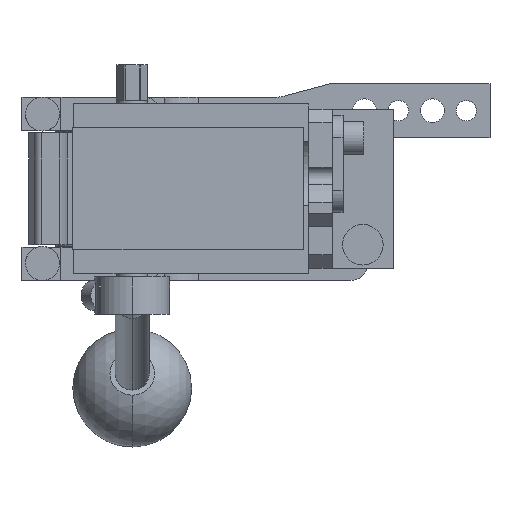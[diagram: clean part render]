
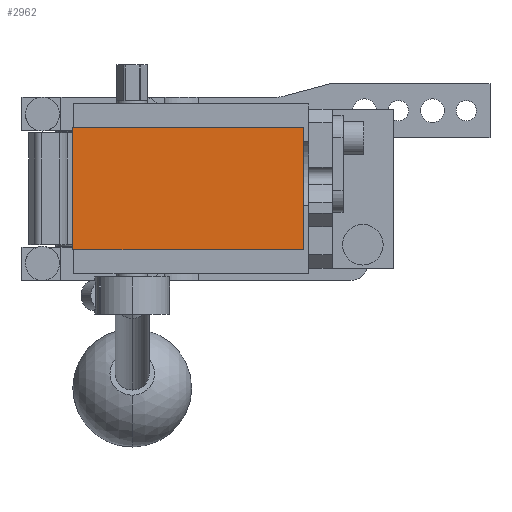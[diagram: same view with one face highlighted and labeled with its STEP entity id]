
A CAD part, front view. The second image highlights one B-rep face of the part: STEP entity #2962.
In plain terms, the highlighted planar face has unit normal (0, -1, 0).
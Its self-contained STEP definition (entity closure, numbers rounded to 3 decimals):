
#75 = EDGE_LOOP ( 'NONE', ( #9098, #14137, #6579, #11395 ) ) ;
#127 = PLANE ( 'NONE',  #14293 ) ;
#1366 = CARTESIAN_POINT ( 'NONE',  ( 0., -233., 0. ) ) ;
#2604 = FACE_OUTER_BOUND ( 'NONE', #75, .T. ) ;
#2962 = ADVANCED_FACE ( 'NONE', ( #2604 ), #127, .T. ) ;
#3426 = DIRECTION ( 'NONE',  ( 0., 0., 1. ) ) ;
#3502 = CARTESIAN_POINT ( 'NONE',  ( -6., -233., 18. ) ) ;
#3638 = DIRECTION ( 'NONE',  ( 1., 0., 0. ) ) ;
#3703 = VECTOR ( 'NONE', #3638, 1000. ) ;
#3728 = CARTESIAN_POINT ( 'NONE',  ( -6., -233., 18. ) ) ;
#4010 = LINE ( 'NONE', #12530, #13547 ) ;
#4162 = EDGE_CURVE ( 'NONE', #14449, #10353, #14570, .T. ) ;
#4196 = DIRECTION ( 'NONE',  ( 0., -1., 0. ) ) ;
#4646 = EDGE_CURVE ( 'NONE', #10213, #5103, #4010, .T. ) ;
#4899 = DIRECTION ( 'NONE',  ( -1., 0., 0. ) ) ;
#5103 = VERTEX_POINT ( 'NONE', #3502 ) ;
#5556 = EDGE_CURVE ( 'NONE', #10353, #10213, #8362, .T. ) ;
#6044 = CARTESIAN_POINT ( 'NONE',  ( 62., -233., 18. ) ) ;
#6579 = ORIENTED_EDGE ( 'NONE', *, *, #5556, .T. ) ;
#7069 = EDGE_CURVE ( 'NONE', #5103, #14449, #12646, .T. ) ;
#7281 = CARTESIAN_POINT ( 'NONE',  ( -6., -233., -18. ) ) ;
#8362 = LINE ( 'NONE', #14518, #12295 ) ;
#8997 = DIRECTION ( 'NONE',  ( 0., 0., -1. ) ) ;
#9098 = ORIENTED_EDGE ( 'NONE', *, *, #7069, .T. ) ;
#10213 = VERTEX_POINT ( 'NONE', #6044 ) ;
#10353 = VERTEX_POINT ( 'NONE', #14535 ) ;
#10784 = CARTESIAN_POINT ( 'NONE',  ( -6., -233., -18. ) ) ;
#11395 = ORIENTED_EDGE ( 'NONE', *, *, #4646, .T. ) ;
#11835 = DIRECTION ( 'NONE',  ( 0., 0., -1. ) ) ;
#12295 = VECTOR ( 'NONE', #3426, 1000. ) ;
#12530 = CARTESIAN_POINT ( 'NONE',  ( -6., -233., 18. ) ) ;
#12646 = LINE ( 'NONE', #3728, #14450 ) ;
#13547 = VECTOR ( 'NONE', #4899, 1000. ) ;
#14137 = ORIENTED_EDGE ( 'NONE', *, *, #4162, .T. ) ;
#14293 = AXIS2_PLACEMENT_3D ( 'NONE', #1366, #4196, #11835 ) ;
#14449 = VERTEX_POINT ( 'NONE', #10784 ) ;
#14450 = VECTOR ( 'NONE', #8997, 1000. ) ;
#14518 = CARTESIAN_POINT ( 'NONE',  ( 62., -233., 18. ) ) ;
#14535 = CARTESIAN_POINT ( 'NONE',  ( 62., -233., -18. ) ) ;
#14570 = LINE ( 'NONE', #7281, #3703 ) ;
